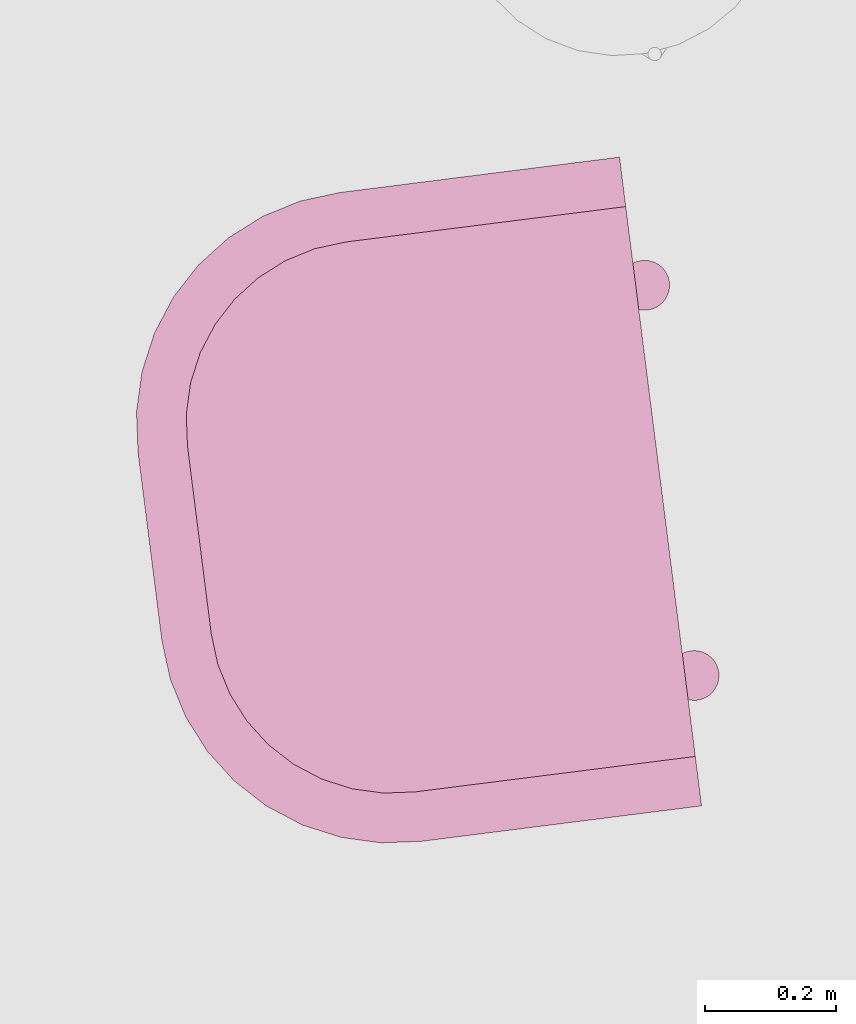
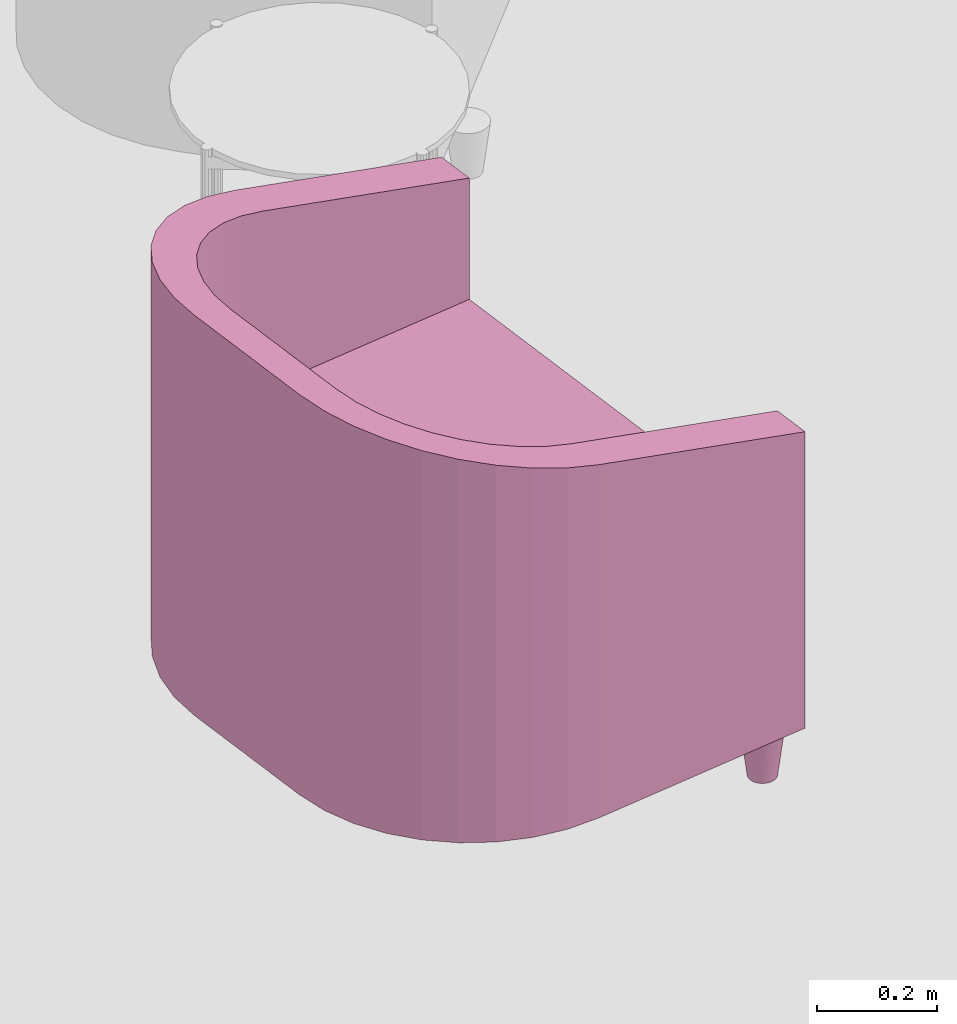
# One storey, part 28 of 52: 1 furnishing.
"""IFC2X3 building model written with IfcOpenShell, lengths in metres."""

from ifc_helpers import new_model, entity, si_unit, converted_unit, derived_unit, money_unit, direction, frame, origin_with_axes, place, context, subcontext, project, spatial, faceted_brep, source, transform, mapped, type_object, element, save


model = new_model("IFC2X3")

# Units and contexts
model_context = context("Model", 3, precision=1e-05, world=origin_with_axes(), true_north=direction((0.0, 1.0)))
body_context = subcontext(model_context, "Body", "Model", "MODEL_VIEW")
ifc_project = project(units=[si_unit("LENGTHUNIT", "METRE"), si_unit("AREAUNIT", "SQUARE_METRE"), si_unit("VOLUMEUNIT", "CUBIC_METRE"), converted_unit("PLANEANGLEUNIT", "DEGREE", entity("IfcPlaneAngleMeasure", 0.0174532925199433), si_unit("PLANEANGLEUNIT", "RADIAN"), dimensions=[0, 0, 0, 0, 0, 0, 0]), money_unit("EUR"), converted_unit("TIMEUNIT", "Year", entity("IfcTimeMeasure", 31556926.0), si_unit("TIMEUNIT", "SECOND"), dimensions=[0, 0, 1, 0, 0, 0, 0]), si_unit("MASSUNIT", "GRAM", prefix="KILO"), si_unit("THERMODYNAMICTEMPERATUREUNIT", "DEGREE_CELSIUS"), si_unit("LUMINOUSINTENSITYUNIT", "LUMEN"), si_unit("ENERGYUNIT", "JOULE", prefix="MEGA"), derived_unit("THERMALCONDUCTANCEUNIT", [(si_unit("POWERUNIT", "WATT"), 1), (si_unit("LENGTHUNIT", "METRE"), -1), (si_unit("THERMODYNAMICTEMPERATUREUNIT", "KELVIN"), -1)]), derived_unit("SPECIFICHEATCAPACITYUNIT", [(si_unit("ENERGYUNIT", "JOULE"), 1), (si_unit("MASSUNIT", "GRAM", prefix="KILO"), -1), (si_unit("THERMODYNAMICTEMPERATUREUNIT", "KELVIN"), -1)]), derived_unit("MASSDENSITYUNIT", [(si_unit("MASSUNIT", "GRAM", prefix="KILO"), 1), (si_unit("VOLUMEUNIT", "CUBIC_METRE"), -1)])], contexts=[model_context])

# Site, building, storey
site_placement = place(None, frame((-3.949935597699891, 1.740105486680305, 0.0), z_axis=(0.0, 0.0, 1.0), x_axis=(0.8799804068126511, -0.475009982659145, 0.0)))
site = spatial("IfcSite", under=ifc_project, at=site_placement, Name="Gelände", CompositionType="ELEMENT")
building_placement = place(site_placement, origin_with_axes())
building = spatial("IfcBuilding", under=site, at=building_placement, Name="Gebäude", CompositionType="ELEMENT")
storey_placement = place(building_placement, origin_with_axes())
storey = spatial("IfcBuildingStorey", under=building, at=storey_placement, Name="Erdgeschoss", CompositionType="ELEMENT", Elevation=0.0)

# Furnishing
furnishing_element_type = type_object("IfcFurnishingElementType", Name="bucket chair (1)")
shared_shape = source(origin_with_axes(), body_context, "Body", "Brep", [
    faceted_brep([(-0.47421411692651, 0.73188933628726, 0.0), (-0.4867211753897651, 0.72968400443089, 0.1016), (-0.4873, 0.7363000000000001, 0.1016), (-0.4746, 0.7363000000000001, 0.0), (-0.473068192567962, 0.7276126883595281, 0.0), (-0.485002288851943, 0.7232690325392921, 0.1016), (-0.482195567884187, 0.71725, 0.1016), (-0.478386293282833, 0.711809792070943, 0.1016), (-0.4736902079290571, 0.707113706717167, 0.1016), (-0.4682499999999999, 0.7033044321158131, 0.1016), (-0.462230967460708, 0.700497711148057, 0.1016), (-0.45581599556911, 0.698778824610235, 0.1016), (-0.4492, 0.6982000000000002, 0.1016), (-0.44258400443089, 0.698778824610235, 0.1016), (-0.436169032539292, 0.700497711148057, 0.1016), (-0.43015, 0.703304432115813, 0.1016), (-0.4247097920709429, 0.707113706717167, 0.1016), (-0.420013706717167, 0.711809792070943, 0.1016), (-0.4162044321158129, 0.71725, 0.1016), (-0.4133977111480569, 0.7232690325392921, 0.1016), (-0.4116788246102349, 0.72968400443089, 0.1016), (-0.4111, 0.7363000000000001, 0.1016), (-0.4116788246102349, 0.7429159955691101, 0.1016), (-0.4133977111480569, 0.749330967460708, 0.1016), (-0.4162044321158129, 0.7553500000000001, 0.1016), (-0.420013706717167, 0.7607902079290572, 0.1016), (-0.4247097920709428, 0.7654862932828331, 0.1016), (-0.43015, 0.7692955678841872, 0.1016), (-0.436169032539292, 0.7721022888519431, 0.1016), (-0.44258400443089, 0.7738211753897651, 0.1016), (-0.4492, 0.7744000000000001, 0.1016), (-0.45581599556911, 0.7738211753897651, 0.1016), (-0.462230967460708, 0.7721022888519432, 0.1016), (-0.46825, 0.7692955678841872, 0.1016), (-0.4736902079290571, 0.7654862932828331, 0.1016), (-0.4783862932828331, 0.7607902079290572, 0.1016), (-0.4821955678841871, 0.7553500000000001, 0.1016), (-0.4850022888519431, 0.749330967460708, 0.1016), (-0.4867211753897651, 0.7429159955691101, 0.1016), (-0.4742141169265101, 0.7407106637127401, 0.0), (-0.4730681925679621, 0.744987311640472, 0.0), (-0.4711970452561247, 0.7490000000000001, 0.0), (-0.468657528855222, 0.7526268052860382, 0.0), (-0.4655268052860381, 0.7557575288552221, 0.0), (-0.4619, 0.7582970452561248, 0.0), (-0.457887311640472, 0.7601681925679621, 0.0), (-0.45361066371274, 0.7613141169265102, 0.0), (-0.4492, 0.7617, 0.0), (-0.44478933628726, 0.7613141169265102, 0.0), (-0.440512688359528, 0.7601681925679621, 0.0), (-0.4365, 0.7582970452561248, 0.0), (-0.4328731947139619, 0.7557575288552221, 0.0), (-0.429742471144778, 0.7526268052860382, 0.0), (-0.4272029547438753, 0.7490000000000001, 0.0), (-0.4253318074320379, 0.744987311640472, 0.0), (-0.4241858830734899, 0.7407106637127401, 0.0), (-0.4238, 0.7363000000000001, 0.0), (-0.4241858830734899, 0.73188933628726, 0.0), (-0.4253318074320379, 0.7276126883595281, 0.0), (-0.4272029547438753, 0.7236000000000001, 0.0), (-0.429742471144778, 0.719973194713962, 0.0), (-0.4328731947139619, 0.7168424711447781, 0.0), (-0.4365, 0.7143029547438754, 0.0), (-0.440512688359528, 0.712431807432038, 0.0), (-0.44478933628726, 0.71128588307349, 0.0), (-0.4492, 0.7109000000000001, 0.0), (-0.45361066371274, 0.71128588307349, 0.0), (-0.457887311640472, 0.712431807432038, 0.0), (-0.4619, 0.7143029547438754, 0.0), (-0.4655268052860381, 0.7168424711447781, 0.0), (-0.468657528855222, 0.719973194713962, 0.0), (-0.4711970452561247, 0.7236000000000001, 0.0)], [[[0, 1, 2, 3]], [[4, 5, 1, 0]], [[1, 5, 6, 7, 8, 9, 10, 11, 12, 13, 14, 15, 16, 17, 18, 19, 20, 21, 22, 23, 24, 25, 26, 27, 28, 29, 30, 31, 32, 33, 34, 35, 36, 37, 38, 2]], [[3, 2, 38, 39]], [[0, 3, 39, 40, 41, 42, 43, 44, 45, 46, 47, 48, 49, 50, 51, 52, 53, 54, 55, 56, 57, 58, 59, 60, 61, 62, 63, 64, 65, 66, 67, 68, 69, 70, 71, 4]], [[71, 6, 5, 4]], [[70, 7, 6, 71]], [[69, 8, 7, 70]], [[68, 9, 8, 69]], [[67, 10, 9, 68]], [[66, 11, 10, 67]], [[65, 12, 11, 66]], [[64, 13, 12, 65]], [[63, 14, 13, 64]], [[62, 15, 14, 63]], [[61, 16, 15, 62]], [[60, 17, 16, 61]], [[59, 18, 17, 60]], [[58, 19, 18, 59]], [[57, 20, 19, 58]], [[56, 21, 20, 57]], [[55, 22, 21, 56]], [[54, 23, 22, 55]], [[53, 24, 23, 54]], [[52, 25, 24, 53]], [[51, 26, 25, 52]], [[50, 27, 26, 51]], [[49, 28, 27, 50]], [[48, 29, 28, 49]], [[47, 30, 29, 48]], [[46, 31, 30, 47]], [[45, 32, 31, 46]], [[44, 33, 32, 45]], [[43, 34, 33, 44]], [[42, 35, 34, 43]], [[41, 36, 35, 42]], [[40, 37, 36, 41]], [[39, 38, 37, 40]]]),
    faceted_brep([(0.42418588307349, 0.73188933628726, 0.0), (0.4116788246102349, 0.72968400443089, 0.1016), (0.4111, 0.7363000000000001, 0.1016), (0.4238, 0.7363000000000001, 0.0), (0.425331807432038, 0.7276126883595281, 0.0), (0.413397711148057, 0.7232690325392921, 0.1016), (0.4162044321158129, 0.71725, 0.1016), (0.420013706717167, 0.711809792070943, 0.1016), (0.4247097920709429, 0.707113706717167, 0.1016), (0.43015, 0.7033044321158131, 0.1016), (0.436169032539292, 0.700497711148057, 0.1016), (0.44258400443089, 0.698778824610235, 0.1016), (0.4492, 0.6982000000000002, 0.1016), (0.45581599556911, 0.698778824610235, 0.1016), (0.462230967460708, 0.700497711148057, 0.1016), (0.4682499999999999, 0.703304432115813, 0.1016), (0.4736902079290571, 0.707113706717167, 0.1016), (0.478386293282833, 0.711809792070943, 0.1016), (0.482195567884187, 0.71725, 0.1016), (0.4850022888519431, 0.7232690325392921, 0.1016), (0.4867211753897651, 0.72968400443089, 0.1016), (0.4873, 0.7363000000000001, 0.1016), (0.4867211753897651, 0.7429159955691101, 0.1016), (0.4850022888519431, 0.749330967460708, 0.1016), (0.482195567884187, 0.7553500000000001, 0.1016), (0.478386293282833, 0.7607902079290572, 0.1016), (0.4736902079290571, 0.7654862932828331, 0.1016), (0.4682499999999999, 0.7692955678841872, 0.1016), (0.462230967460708, 0.7721022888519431, 0.1016), (0.45581599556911, 0.7738211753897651, 0.1016), (0.4492, 0.7744000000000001, 0.1016), (0.44258400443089, 0.7738211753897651, 0.1016), (0.436169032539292, 0.7721022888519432, 0.1016), (0.43015, 0.7692955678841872, 0.1016), (0.4247097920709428, 0.7654862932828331, 0.1016), (0.4200137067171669, 0.7607902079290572, 0.1016), (0.4162044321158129, 0.7553500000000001, 0.1016), (0.4133977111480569, 0.749330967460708, 0.1016), (0.4116788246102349, 0.7429159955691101, 0.1016), (0.4241858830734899, 0.7407106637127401, 0.0), (0.4253318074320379, 0.744987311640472, 0.0), (0.4272029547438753, 0.7490000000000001, 0.0), (0.4297424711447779, 0.7526268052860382, 0.0), (0.4328731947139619, 0.7557575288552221, 0.0), (0.4365, 0.7582970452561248, 0.0), (0.440512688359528, 0.7601681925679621, 0.0), (0.44478933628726, 0.7613141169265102, 0.0), (0.4492, 0.7617, 0.0), (0.45361066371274, 0.7613141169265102, 0.0), (0.457887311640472, 0.7601681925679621, 0.0), (0.4619, 0.7582970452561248, 0.0), (0.4655268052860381, 0.7557575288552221, 0.0), (0.468657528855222, 0.7526268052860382, 0.0), (0.4711970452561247, 0.7490000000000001, 0.0), (0.4730681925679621, 0.744987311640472, 0.0), (0.4742141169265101, 0.7407106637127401, 0.0), (0.4746, 0.7363000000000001, 0.0), (0.4742141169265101, 0.73188933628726, 0.0), (0.4730681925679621, 0.7276126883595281, 0.0), (0.4711970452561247, 0.7236000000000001, 0.0), (0.468657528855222, 0.719973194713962, 0.0), (0.4655268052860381, 0.7168424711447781, 0.0), (0.4619, 0.7143029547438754, 0.0), (0.457887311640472, 0.712431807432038, 0.0), (0.45361066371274, 0.71128588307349, 0.0), (0.4492, 0.7109000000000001, 0.0), (0.44478933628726, 0.71128588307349, 0.0), (0.440512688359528, 0.712431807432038, 0.0), (0.4365, 0.7143029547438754, 0.0), (0.4328731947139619, 0.7168424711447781, 0.0), (0.429742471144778, 0.719973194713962, 0.0), (0.4272029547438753, 0.7236000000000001, 0.0)], [[[0, 1, 2, 3]], [[4, 5, 1, 0]], [[1, 5, 6, 7, 8, 9, 10, 11, 12, 13, 14, 15, 16, 17, 18, 19, 20, 21, 22, 23, 24, 25, 26, 27, 28, 29, 30, 31, 32, 33, 34, 35, 36, 37, 38, 2]], [[3, 2, 38, 39]], [[0, 3, 39, 40, 41, 42, 43, 44, 45, 46, 47, 48, 49, 50, 51, 52, 53, 54, 55, 56, 57, 58, 59, 60, 61, 62, 63, 64, 65, 66, 67, 68, 69, 70, 71, 4]], [[71, 6, 5, 4]], [[70, 7, 6, 71]], [[69, 8, 7, 70]], [[68, 9, 8, 69]], [[67, 10, 9, 68]], [[66, 11, 10, 67]], [[65, 12, 11, 66]], [[64, 13, 12, 65]], [[63, 14, 13, 64]], [[62, 15, 14, 63]], [[61, 16, 15, 62]], [[60, 17, 16, 61]], [[59, 18, 17, 60]], [[58, 19, 18, 59]], [[57, 20, 19, 58]], [[56, 21, 20, 57]], [[55, 22, 21, 56]], [[54, 23, 22, 55]], [[53, 24, 23, 54]], [[52, 25, 24, 53]], [[51, 26, 25, 52]], [[50, 27, 26, 51]], [[49, 28, 27, 50]], [[48, 29, 28, 49]], [[47, 30, 29, 48]], [[46, 31, 30, 47]], [[45, 32, 31, 46]], [[44, 33, 32, 45]], [[43, 34, 33, 44]], [[42, 35, 34, 43]], [[41, 36, 35, 42]], [[40, 37, 36, 41]], [[39, 38, 37, 40]]]),
    faceted_brep([(-0.3258141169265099, 0.7963893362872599, 0.0), (-0.338321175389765, 0.7941840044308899, 0.1016), (-0.3388999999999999, 0.8008, 0.1016), (-0.3261999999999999, 0.8008, 0.0), (-0.3246681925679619, 0.792112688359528, 0.0), (-0.3366022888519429, 0.787769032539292, 0.1016), (-0.333795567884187, 0.78175, 0.1016), (-0.3299862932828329, 0.7763097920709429, 0.1016), (-0.325290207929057, 0.7716137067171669, 0.1016), (-0.3198499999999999, 0.767804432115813, 0.1016), (-0.3138309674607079, 0.7649977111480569, 0.1016), (-0.3074159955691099, 0.7632788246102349, 0.1016), (-0.3007999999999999, 0.7627, 0.1016), (-0.2941840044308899, 0.7632788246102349, 0.1016), (-0.2877690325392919, 0.7649977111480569, 0.1016), (-0.2817499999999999, 0.7678044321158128, 0.1016), (-0.2763097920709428, 0.7716137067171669, 0.1016), (-0.2716137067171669, 0.7763097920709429, 0.1016), (-0.2678044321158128, 0.78175, 0.1016), (-0.2649977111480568, 0.787769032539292, 0.1016), (-0.2632788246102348, 0.7941840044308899, 0.1016), (-0.2626999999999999, 0.8008, 0.1016), (-0.2632788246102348, 0.80741599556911, 0.1016), (-0.2649977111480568, 0.8138309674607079, 0.1016), (-0.2678044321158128, 0.81985, 0.1016), (-0.2716137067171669, 0.825290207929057, 0.1016), (-0.2763097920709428, 0.829986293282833, 0.1016), (-0.2817499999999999, 0.8337955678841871, 0.1016), (-0.2877690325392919, 0.8366022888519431, 0.1016), (-0.2941840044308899, 0.838321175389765, 0.1016), (-0.3007999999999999, 0.8389, 0.1016), (-0.3074159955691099, 0.838321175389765, 0.1016), (-0.3138309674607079, 0.8366022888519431, 0.1016), (-0.3198499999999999, 0.8337955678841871, 0.1016), (-0.3252902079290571, 0.829986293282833, 0.1016), (-0.329986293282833, 0.825290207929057, 0.1016), (-0.333795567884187, 0.81985, 0.1016), (-0.336602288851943, 0.8138309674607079, 0.1016), (-0.338321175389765, 0.80741599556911, 0.1016), (-0.32581411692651, 0.80521066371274, 0.0), (-0.324668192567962, 0.8094873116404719, 0.0), (-0.3227970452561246, 0.8135, 0.0), (-0.320257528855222, 0.8171268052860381, 0.0), (-0.317126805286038, 0.820257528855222, 0.0), (-0.3134999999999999, 0.8227970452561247, 0.0), (-0.3094873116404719, 0.824668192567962, 0.0), (-0.3052106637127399, 0.8258141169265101, 0.0), (-0.3007999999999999, 0.8261999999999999, 0.0), (-0.2963893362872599, 0.8258141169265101, 0.0), (-0.2921126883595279, 0.824668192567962, 0.0), (-0.2880999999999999, 0.8227970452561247, 0.0), (-0.2844731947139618, 0.820257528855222, 0.0), (-0.2813424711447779, 0.8171268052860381, 0.0), (-0.2788029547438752, 0.8135, 0.0), (-0.2769318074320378, 0.8094873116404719, 0.0), (-0.2757858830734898, 0.80521066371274, 0.0), (-0.2753999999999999, 0.8008, 0.0), (-0.2757858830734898, 0.7963893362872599, 0.0), (-0.2769318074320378, 0.792112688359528, 0.0), (-0.2788029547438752, 0.7881, 0.0), (-0.2813424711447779, 0.7844731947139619, 0.0), (-0.2844731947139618, 0.781342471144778, 0.0), (-0.2880999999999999, 0.7788029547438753, 0.0), (-0.2921126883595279, 0.7769318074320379, 0.0), (-0.2963893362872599, 0.77578588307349, 0.0), (-0.3007999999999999, 0.7754, 0.0), (-0.3052106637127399, 0.77578588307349, 0.0), (-0.3094873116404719, 0.7769318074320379, 0.0), (-0.3134999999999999, 0.7788029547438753, 0.0), (-0.317126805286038, 0.781342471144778, 0.0), (-0.3202575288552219, 0.7844731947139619, 0.0), (-0.3227970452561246, 0.7881, 0.0)], [[[0, 1, 2, 3]], [[4, 5, 1, 0]], [[1, 5, 6, 7, 8, 9, 10, 11, 12, 13, 14, 15, 16, 17, 18, 19, 20, 21, 22, 23, 24, 25, 26, 27, 28, 29, 30, 31, 32, 33, 34, 35, 36, 37, 38, 2]], [[3, 2, 38, 39]], [[0, 3, 39, 40, 41, 42, 43, 44, 45, 46, 47, 48, 49, 50, 51, 52, 53, 54, 55, 56, 57, 58, 59, 60, 61, 62, 63, 64, 65, 66, 67, 68, 69, 70, 71, 4]], [[71, 6, 5, 4]], [[70, 7, 6, 71]], [[69, 8, 7, 70]], [[68, 9, 8, 69]], [[67, 10, 9, 68]], [[66, 11, 10, 67]], [[65, 12, 11, 66]], [[64, 13, 12, 65]], [[63, 14, 13, 64]], [[62, 15, 14, 63]], [[61, 16, 15, 62]], [[60, 17, 16, 61]], [[59, 18, 17, 60]], [[58, 19, 18, 59]], [[57, 20, 19, 58]], [[56, 21, 20, 57]], [[55, 22, 21, 56]], [[54, 23, 22, 55]], [[53, 24, 23, 54]], [[52, 25, 24, 53]], [[51, 26, 25, 52]], [[50, 27, 26, 51]], [[49, 28, 27, 50]], [[48, 29, 28, 49]], [[47, 30, 29, 48]], [[46, 31, 30, 47]], [[45, 32, 31, 46]], [[44, 33, 32, 45]], [[43, 34, 33, 44]], [[42, 35, 34, 43]], [[41, 36, 35, 42]], [[40, 37, 36, 41]], [[39, 38, 37, 40]]]),
    faceted_brep([(0.2757858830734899, 0.7963893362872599, 0.0), (0.2632788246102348, 0.7941840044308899, 0.1016), (0.2626999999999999, 0.8008, 0.1016), (0.2753999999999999, 0.8008, 0.0), (0.2769318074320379, 0.792112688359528, 0.0), (0.2649977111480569, 0.787769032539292, 0.1016), (0.2678044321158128, 0.78175, 0.1016), (0.2716137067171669, 0.7763097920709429, 0.1016), (0.2763097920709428, 0.7716137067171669, 0.1016), (0.2817499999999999, 0.767804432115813, 0.1016), (0.2877690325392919, 0.7649977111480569, 0.1016), (0.2941840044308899, 0.7632788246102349, 0.1016), (0.3007999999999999, 0.7627, 0.1016), (0.3074159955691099, 0.7632788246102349, 0.1016), (0.3138309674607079, 0.7649977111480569, 0.1016), (0.3198499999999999, 0.7678044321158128, 0.1016), (0.325290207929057, 0.7716137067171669, 0.1016), (0.3299862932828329, 0.7763097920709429, 0.1016), (0.333795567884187, 0.78175, 0.1016), (0.336602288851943, 0.787769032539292, 0.1016), (0.338321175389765, 0.7941840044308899, 0.1016), (0.3388999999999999, 0.8008, 0.1016), (0.338321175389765, 0.80741599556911, 0.1016), (0.336602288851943, 0.8138309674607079, 0.1016), (0.333795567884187, 0.81985, 0.1016), (0.3299862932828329, 0.825290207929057, 0.1016), (0.3252902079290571, 0.829986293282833, 0.1016), (0.3198499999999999, 0.8337955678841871, 0.1016), (0.3138309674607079, 0.8366022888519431, 0.1016), (0.3074159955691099, 0.838321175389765, 0.1016), (0.3007999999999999, 0.8389, 0.1016), (0.2941840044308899, 0.838321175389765, 0.1016), (0.2877690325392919, 0.8366022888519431, 0.1016), (0.2817499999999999, 0.8337955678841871, 0.1016), (0.2763097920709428, 0.829986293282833, 0.1016), (0.2716137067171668, 0.825290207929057, 0.1016), (0.2678044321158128, 0.81985, 0.1016), (0.2649977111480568, 0.8138309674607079, 0.1016), (0.2632788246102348, 0.80741599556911, 0.1016), (0.2757858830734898, 0.80521066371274, 0.0), (0.2769318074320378, 0.8094873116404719, 0.0), (0.2788029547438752, 0.8135, 0.0), (0.2813424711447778, 0.8171268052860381, 0.0), (0.2844731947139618, 0.820257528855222, 0.0), (0.2880999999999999, 0.8227970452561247, 0.0), (0.2921126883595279, 0.824668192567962, 0.0), (0.2963893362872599, 0.8258141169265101, 0.0), (0.3007999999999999, 0.8261999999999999, 0.0), (0.3052106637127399, 0.8258141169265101, 0.0), (0.3094873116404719, 0.824668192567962, 0.0), (0.3134999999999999, 0.8227970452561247, 0.0), (0.317126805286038, 0.820257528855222, 0.0), (0.3202575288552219, 0.8171268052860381, 0.0), (0.3227970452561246, 0.8135, 0.0), (0.324668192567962, 0.8094873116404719, 0.0), (0.32581411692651, 0.80521066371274, 0.0), (0.3261999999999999, 0.8008, 0.0), (0.32581411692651, 0.7963893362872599, 0.0), (0.324668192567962, 0.792112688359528, 0.0), (0.3227970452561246, 0.7881, 0.0), (0.3202575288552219, 0.7844731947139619, 0.0), (0.317126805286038, 0.781342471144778, 0.0), (0.3134999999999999, 0.7788029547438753, 0.0), (0.3094873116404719, 0.7769318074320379, 0.0), (0.3052106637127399, 0.77578588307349, 0.0), (0.3007999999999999, 0.7754, 0.0), (0.2963893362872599, 0.77578588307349, 0.0), (0.2921126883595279, 0.7769318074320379, 0.0), (0.2880999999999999, 0.7788029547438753, 0.0), (0.2844731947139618, 0.781342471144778, 0.0), (0.2813424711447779, 0.7844731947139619, 0.0), (0.2788029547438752, 0.7881, 0.0)], [[[0, 1, 2, 3]], [[4, 5, 1, 0]], [[1, 5, 6, 7, 8, 9, 10, 11, 12, 13, 14, 15, 16, 17, 18, 19, 20, 21, 22, 23, 24, 25, 26, 27, 28, 29, 30, 31, 32, 33, 34, 35, 36, 37, 38, 2]], [[3, 2, 38, 39]], [[0, 3, 39, 40, 41, 42, 43, 44, 45, 46, 47, 48, 49, 50, 51, 52, 53, 54, 55, 56, 57, 58, 59, 60, 61, 62, 63, 64, 65, 66, 67, 68, 69, 70, 71, 4]], [[71, 6, 5, 4]], [[70, 7, 6, 71]], [[69, 8, 7, 70]], [[68, 9, 8, 69]], [[67, 10, 9, 68]], [[66, 11, 10, 67]], [[65, 12, 11, 66]], [[64, 13, 12, 65]], [[63, 14, 13, 64]], [[62, 15, 14, 63]], [[61, 16, 15, 62]], [[60, 17, 16, 61]], [[59, 18, 17, 60]], [[58, 19, 18, 59]], [[57, 20, 19, 58]], [[56, 21, 20, 57]], [[55, 22, 21, 56]], [[54, 23, 22, 55]], [[53, 24, 23, 54]], [[52, 25, 24, 53]], [[51, 26, 25, 52]], [[50, 27, 26, 51]], [[49, 28, 27, 50]], [[48, 29, 28, 49]], [[47, 30, 29, 48]], [[46, 31, 30, 47]], [[45, 32, 31, 46]], [[44, 33, 32, 45]], [[43, 34, 33, 44]], [[42, 35, 34, 43]], [[41, 36, 35, 42]], [[40, 37, 36, 41]], [[39, 38, 37, 40]]]),
    faceted_brep([(0.5, 0.7871, 0.1016), (0.5, 0.7871, 0.7034971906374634), (0.5, 0.3556, 0.8191172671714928), (0.5, 0.3556, 0.1016), (0.4238, 0.7871, 0.1016), (0.4238, 0.7871, 0.7034971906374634), (0.4238, 0.3556000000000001, 0.8191172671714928), (0.4195552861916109, 0.3070826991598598, 0.8321174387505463), (0.4069501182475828, 0.2600395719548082, 0.8447226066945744), (0.3863674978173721, 0.2159000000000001, 0.8565497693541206), (0.3584328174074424, 0.176005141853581, 0.8672395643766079), (0.323994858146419, 0.1415671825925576, 0.8764671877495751), (0.2841, 0.1136325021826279, 0.8839522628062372), (0.2399604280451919, 0.09304988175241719, 0.8894673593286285), (0.1929173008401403, 0.08044471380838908, 0.8928449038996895), (0.1444, 0.0762, 0.8939822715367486), (-0.1444000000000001, 0.07620000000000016, 0.8939822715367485), (-0.1929173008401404, 0.08044471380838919, 0.8928449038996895), (-0.2399604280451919, 0.0930498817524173, 0.8894673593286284), (-0.2841, 0.1136325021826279, 0.8839522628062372), (-0.3239948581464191, 0.1415671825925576, 0.8764671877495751), (-0.3584328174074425, 0.176005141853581, 0.8672395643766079), (-0.3863674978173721, 0.2159000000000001, 0.8565497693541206), (-0.4069501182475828, 0.2600395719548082, 0.8447226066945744), (-0.4195552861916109, 0.3070826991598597, 0.8321174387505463), (-0.4238, 0.3556, 0.8191172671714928), (-0.4238, 0.7871, 0.7034971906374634), (-0.5, 0.7871, 0.7034971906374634), (-0.4999999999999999, 0.3555999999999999, 0.8191172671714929), (-0.494597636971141, 0.2938507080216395, 0.8356629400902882), (-0.4785546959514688, 0.2339776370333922, 0.8517058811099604), (-0.4523586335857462, 0.1778, 0.8667586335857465), (-0.4168054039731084, 0.1270247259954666, 0.8803638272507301), (-0.3729752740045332, 0.08319459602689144, 0.8921080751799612), (-0.3221999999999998, 0.04764136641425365, 0.9016345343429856), (-0.2660223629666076, 0.02144530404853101, 0.9086537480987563), (-0.2061492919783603, 0.005402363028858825, 0.9129524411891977), (-0.1444, 0.0, 0.9144000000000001), (0.0, 0.0, 0.9144000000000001), (0.1444000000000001, 0.0, 0.9144000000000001), (0.2061492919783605, 0.005402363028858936, 0.9129524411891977), (0.2660223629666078, 0.02144530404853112, 0.9086537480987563), (0.3222, 0.04764136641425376, 0.9016345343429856), (0.3729752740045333, 0.08319459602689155, 0.892108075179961), (0.4168054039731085, 0.1270247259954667, 0.8803638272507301), (0.4523586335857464, 0.1778000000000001, 0.8667586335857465), (0.4785546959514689, 0.2339776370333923, 0.8517058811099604), (0.4945976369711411, 0.2938507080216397, 0.8356629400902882), (0.4945976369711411, 0.2938507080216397, 0.1016), (0.4785546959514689, 0.2339776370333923, 0.1016), (0.4523586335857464, 0.1778000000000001, 0.1016), (0.4168054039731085, 0.1270247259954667, 0.1016), (0.3729752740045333, 0.08319459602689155, 0.1016), (0.3222, 0.04764136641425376, 0.1016), (0.2660223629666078, 0.02144530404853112, 0.1016), (0.2061492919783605, 0.005402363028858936, 0.1016), (0.1444000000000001, 0.0, 0.1016), (0.0, 0.0, 0.1016), (-0.1444, 0.0, 0.1016), (-0.2061492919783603, 0.005402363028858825, 0.1016), (-0.2660223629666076, 0.02144530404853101, 0.1016), (-0.3221999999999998, 0.04764136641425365, 0.1016), (-0.3729752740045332, 0.08319459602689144, 0.1016), (-0.4168054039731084, 0.1270247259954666, 0.1016), (-0.4523586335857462, 0.1778, 0.1016), (-0.4785546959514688, 0.2339776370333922, 0.1016), (-0.494597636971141, 0.2938507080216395, 0.1016), (-0.4999999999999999, 0.3555999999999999, 0.1016), (-0.5, 0.7871, 0.1016), (-0.4238, 0.7871, 0.1016), (-0.4238, 0.3556, 0.1016), (-0.4195552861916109, 0.3070826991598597, 0.1016), (-0.4069501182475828, 0.2600395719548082, 0.1016), (-0.3863674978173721, 0.2159000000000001, 0.1016), (-0.3584328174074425, 0.176005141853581, 0.1016), (-0.3239948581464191, 0.1415671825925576, 0.1016), (-0.2841, 0.1136325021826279, 0.1016), (-0.2399604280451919, 0.0930498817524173, 0.1016), (-0.1929173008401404, 0.08044471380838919, 0.1016), (-0.1444000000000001, 0.07620000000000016, 0.1016), (0.1444, 0.0762, 0.1016), (0.1929173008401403, 0.08044471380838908, 0.1016), (0.2399604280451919, 0.09304988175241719, 0.1016), (0.2841, 0.1136325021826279, 0.1016), (0.323994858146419, 0.1415671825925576, 0.1016), (0.3584328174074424, 0.176005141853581, 0.1016), (0.3863674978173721, 0.2159000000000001, 0.1016), (0.4069501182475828, 0.2600395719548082, 0.1016), (0.4195552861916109, 0.3070826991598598, 0.1016), (0.4238, 0.3556000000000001, 0.1016)], [[[0, 1, 2, 3]], [[4, 5, 1, 0]], [[1, 5, 6, 7, 8, 9, 10, 11, 12, 13, 14, 15, 16, 17, 18, 19, 20, 21, 22, 23, 24, 25, 26, 27, 28, 29, 30, 31, 32, 33, 34, 35, 36, 37, 38, 39, 40, 41, 42, 43, 44, 45, 46, 47, 2]], [[3, 2, 47, 48]], [[0, 3, 48, 49, 50, 51, 52, 53, 54, 55, 56, 57, 58, 59, 60, 61, 62, 63, 64, 65, 66, 67, 68, 69, 70, 71, 72, 73, 74, 75, 76, 77, 78, 79, 80, 81, 82, 83, 84, 85, 86, 87, 88, 89, 4]], [[89, 6, 5, 4]], [[88, 7, 6, 89]], [[87, 8, 7, 88]], [[86, 9, 8, 87]], [[85, 10, 9, 86]], [[84, 11, 10, 85]], [[83, 12, 11, 84]], [[82, 13, 12, 83]], [[81, 14, 13, 82]], [[80, 15, 14, 81]], [[79, 16, 15, 80]], [[78, 17, 16, 79]], [[77, 18, 17, 78]], [[76, 19, 18, 77]], [[75, 20, 19, 76]], [[74, 21, 20, 75]], [[73, 22, 21, 74]], [[72, 23, 22, 73]], [[71, 24, 23, 72]], [[70, 25, 24, 71]], [[69, 26, 25, 70]], [[68, 27, 26, 69]], [[67, 28, 27, 68]], [[66, 29, 28, 67]], [[65, 30, 29, 66]], [[64, 31, 30, 65]], [[63, 32, 31, 64]], [[62, 33, 32, 63]], [[61, 34, 33, 62]], [[60, 35, 34, 61]], [[59, 36, 35, 60]], [[58, 37, 36, 59]], [[57, 38, 37, 58]], [[56, 39, 38, 57]], [[55, 40, 39, 56]], [[54, 41, 40, 55]], [[53, 42, 41, 54]], [[52, 43, 42, 53]], [[51, 44, 43, 52]], [[50, 45, 44, 51]], [[49, 46, 45, 50]], [[48, 47, 46, 49]]]),
    faceted_brep([(0.4238, 0.7871, 0.1016), (0.4238, 0.7871, 0.4572000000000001), (0.4238, 0.3556000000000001, 0.4572000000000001), (0.4238, 0.3556000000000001, 0.1016), (-0.4238, 0.7871, 0.1016), (-0.4238, 0.7871, 0.4572000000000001), (-0.4238, 0.3556, 0.4572000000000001), (-0.4195552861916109, 0.3070826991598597, 0.4572000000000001), (-0.4069501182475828, 0.2600395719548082, 0.4572000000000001), (-0.3863674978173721, 0.2159000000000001, 0.4572000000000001), (-0.3584328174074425, 0.176005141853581, 0.4572000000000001), (-0.3239948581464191, 0.1415671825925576, 0.4572000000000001), (-0.2841, 0.1136325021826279, 0.4572000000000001), (-0.2399604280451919, 0.0930498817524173, 0.4572000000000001), (-0.1929173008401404, 0.08044471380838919, 0.4572000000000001), (-0.1444000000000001, 0.07620000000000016, 0.4572000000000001), (0.1444, 0.0762, 0.4572000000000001), (0.1929173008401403, 0.08044471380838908, 0.4572000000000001), (0.2399604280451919, 0.09304988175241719, 0.4572000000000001), (0.2841, 0.1136325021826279, 0.4572000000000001), (0.323994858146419, 0.1415671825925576, 0.4572000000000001), (0.3584328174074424, 0.176005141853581, 0.4572000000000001), (0.3863674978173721, 0.2159000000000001, 0.4572000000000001), (0.4069501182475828, 0.2600395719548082, 0.4572000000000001), (0.4195552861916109, 0.3070826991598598, 0.4572000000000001), (0.4195552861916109, 0.3070826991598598, 0.1016), (0.4069501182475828, 0.2600395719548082, 0.1016), (0.3863674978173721, 0.2159000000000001, 0.1016), (0.3584328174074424, 0.176005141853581, 0.1016), (0.323994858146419, 0.1415671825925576, 0.1016), (0.2841, 0.1136325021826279, 0.1016), (0.2399604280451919, 0.09304988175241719, 0.1016), (0.1929173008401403, 0.08044471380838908, 0.1016), (0.1444, 0.0762, 0.1016), (-0.1444000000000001, 0.07620000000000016, 0.1016), (-0.1929173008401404, 0.08044471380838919, 0.1016), (-0.2399604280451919, 0.0930498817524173, 0.1016), (-0.2841, 0.1136325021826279, 0.1016), (-0.3239948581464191, 0.1415671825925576, 0.1016), (-0.3584328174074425, 0.176005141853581, 0.1016), (-0.3863674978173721, 0.2159000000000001, 0.1016), (-0.4069501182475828, 0.2600395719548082, 0.1016), (-0.4195552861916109, 0.3070826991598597, 0.1016), (-0.4238, 0.3556, 0.1016)], [[[0, 1, 2, 3]], [[4, 5, 1, 0]], [[1, 5, 6, 7, 8, 9, 10, 11, 12, 13, 14, 15, 16, 17, 18, 19, 20, 21, 22, 23, 24, 2]], [[3, 2, 24, 25]], [[0, 3, 25, 26, 27, 28, 29, 30, 31, 32, 33, 34, 35, 36, 37, 38, 39, 40, 41, 42, 43, 4]], [[43, 6, 5, 4]], [[42, 7, 6, 43]], [[41, 8, 7, 42]], [[40, 9, 8, 41]], [[39, 10, 9, 40]], [[38, 11, 10, 39]], [[37, 12, 11, 38]], [[36, 13, 12, 37]], [[35, 14, 13, 36]], [[34, 15, 14, 35]], [[33, 16, 15, 34]], [[32, 17, 16, 33]], [[31, 18, 17, 32]], [[30, 19, 18, 31]], [[29, 20, 19, 30]], [[28, 21, 20, 29]], [[27, 22, 21, 28]], [[26, 23, 22, 27]], [[25, 24, 23, 26]]]),
])
furnishing_placement = place(storey_placement, frame((22.48601829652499, 2.169700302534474, 0.0), z_axis=(0.0, 0.0, 1.0), x_axis=(0.5817211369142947, -0.8133882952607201, 0.0)))
element("IfcFurnishingElement", 1, at=furnishing_placement, inside=storey, type_object=furnishing_element_type, Name="Objekt-0069", context=body_context, shape_type="MappedRepresentation", body=[
    mapped(shared_shape, transform((0.0, 0.0, 0.0))),
])

save(model, "model.ifc")
